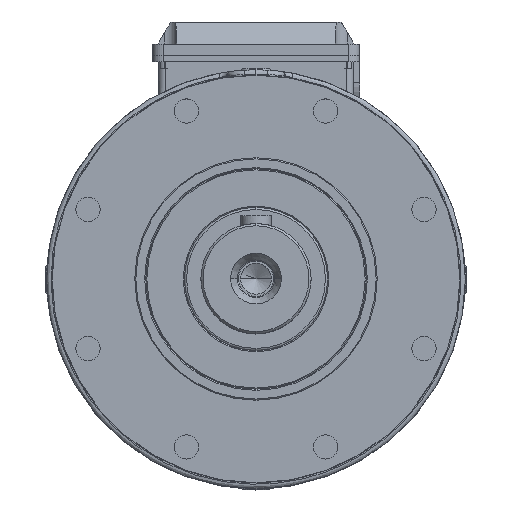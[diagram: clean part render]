
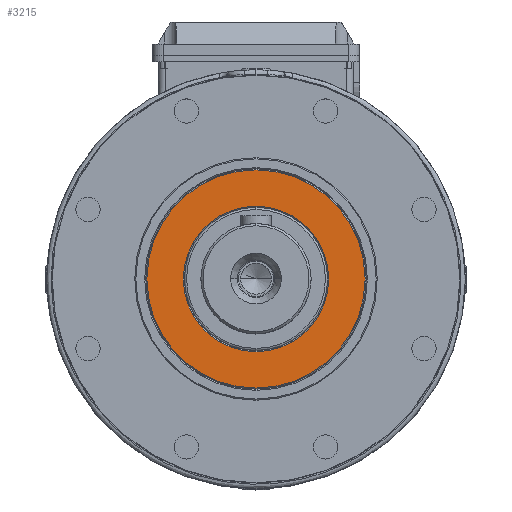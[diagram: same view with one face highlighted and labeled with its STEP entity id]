
A CAD part, top view. The second image highlights one B-rep face of the part: STEP entity #3215.
In plain terms, the highlighted planar face has unit normal (0, 0, 1) as drawn and (0, 0, -1) by its records, which use the part's own axes.
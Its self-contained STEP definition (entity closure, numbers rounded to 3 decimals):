
#3215 = ADVANCED_FACE ( 'NONE', ( #103958, #103970 ), #103180, .F. ) ;
#10658 = EDGE_LOOP ( 'NONE', ( #25333, #25385 ) ) ;
#10710 = EDGE_LOOP ( 'NONE', ( #25436, #25480 ) ) ;
#11430 = CARTESIAN_POINT ( 'NONE',  ( 49.5, 0., 0. ) ) ;
#11464 = CARTESIAN_POINT ( 'NONE',  ( 33., 0., 0. ) ) ;
#11484 = CARTESIAN_POINT ( 'NONE',  ( -49.5, 0., 0. ) ) ;
#11511 = CARTESIAN_POINT ( 'NONE',  ( -33., 0., 0. ) ) ;
#14669 = CIRCLE ( 'NONE', #26763, 33. ) ;
#14845 = CIRCLE ( 'NONE', #26881, 33. ) ;
#14852 = CIRCLE ( 'NONE', #26910, 49.5 ) ;
#15865 = CIRCLE ( 'NONE', #26731, 49.5 ) ;
#22081 = DIRECTION ( 'NONE',  ( -1., 0., 0. ) ) ;
#22083 = CARTESIAN_POINT ( 'NONE',  ( 0., 0., 0. ) ) ;
#22084 = DIRECTION ( 'NONE',  ( 0., 0., -1. ) ) ;
#22085 = DIRECTION ( 'NONE',  ( 1., 0., 0. ) ) ;
#22095 = CARTESIAN_POINT ( 'NONE',  ( 0., 0., 0. ) ) ;
#22113 = DIRECTION ( 'NONE',  ( 0., 0., 1. ) ) ;
#24624 = CARTESIAN_POINT ( 'NONE',  ( 0., 0., 0. ) ) ;
#24656 = DIRECTION ( 'NONE',  ( 0., 0., -1. ) ) ;
#24657 = DIRECTION ( 'NONE',  ( -1., 0., 0. ) ) ;
#25333 = ORIENTED_EDGE ( 'NONE', *, *, #88730, .F. ) ;
#25385 = ORIENTED_EDGE ( 'NONE', *, *, #88786, .F. ) ;
#25436 = ORIENTED_EDGE ( 'NONE', *, *, #88664, .F. ) ;
#25480 = ORIENTED_EDGE ( 'NONE', *, *, #88789, .F. ) ;
#25757 = CARTESIAN_POINT ( 'NONE',  ( 0., 0., 0. ) ) ;
#25771 = DIRECTION ( 'NONE',  ( 0., 0., 1. ) ) ;
#25773 = DIRECTION ( 'NONE',  ( 1., 0., 0. ) ) ;
#26731 = AXIS2_PLACEMENT_3D ( 'NONE', #25757, #25771, #25773 ) ;
#26763 = AXIS2_PLACEMENT_3D ( 'NONE', #24624, #24656, #24657 ) ;
#26881 = AXIS2_PLACEMENT_3D ( 'NONE', #22095, #22084, #22081 ) ;
#26910 = AXIS2_PLACEMENT_3D ( 'NONE', #22083, #22113, #22085 ) ;
#88664 = EDGE_CURVE ( 'NONE', #105579, #105591, #15865, .T. ) ;
#88730 = EDGE_CURVE ( 'NONE', #105661, #105593, #14669, .T. ) ;
#88786 = EDGE_CURVE ( 'NONE', #105593, #105661, #14845, .T. ) ;
#88789 = EDGE_CURVE ( 'NONE', #105591, #105579, #14852, .T. ) ;
#96699 = AXIS2_PLACEMENT_3D ( 'NONE', #103160, #103233, #103248 ) ;
#103160 = CARTESIAN_POINT ( 'NONE',  ( -33., 0., 0. ) ) ;
#103180 = PLANE ( 'NONE',  #96699 ) ;
#103233 = DIRECTION ( 'NONE',  ( 0., 0., 1. ) ) ;
#103248 = DIRECTION ( 'NONE',  ( 0., -1., 0. ) ) ;
#103958 = FACE_BOUND ( 'NONE', #10658, .T. ) ;
#103970 = FACE_OUTER_BOUND ( 'NONE', #10710, .T. ) ;
#105579 = VERTEX_POINT ( 'NONE', #11430 ) ;
#105591 = VERTEX_POINT ( 'NONE', #11484 ) ;
#105593 = VERTEX_POINT ( 'NONE', #11464 ) ;
#105661 = VERTEX_POINT ( 'NONE', #11511 ) ;
